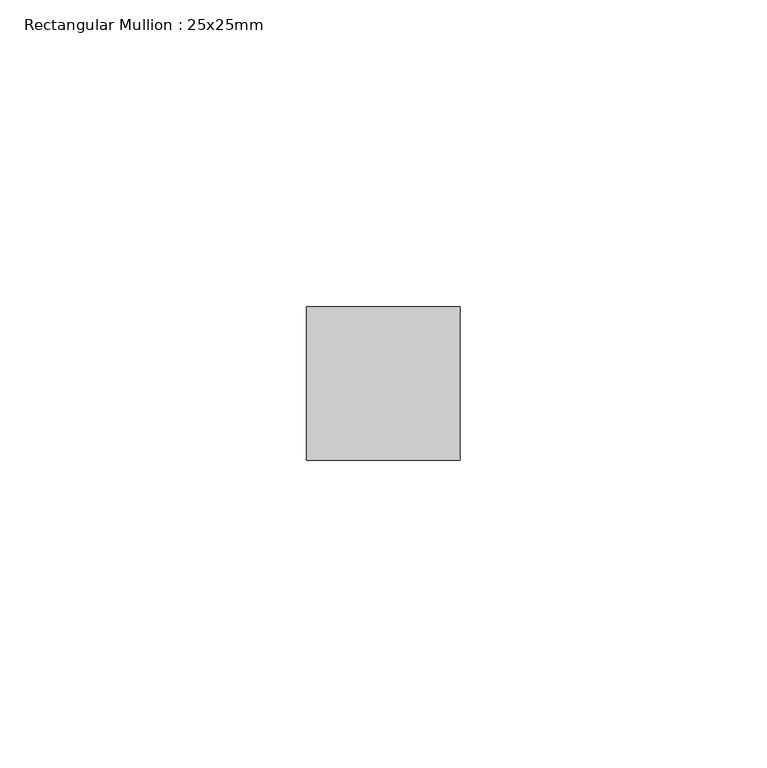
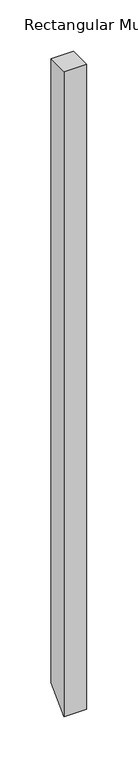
"""IFC4 building model written with IfcOpenShell, lengths in millimetres: member geometry, Rectangular Mullion : 25x25mm."""

import ifcopenshell
import ifcopenshell.guid

model = None  # the IFC model being written
_history = None  # IfcOwnerHistory: only IFC2X3 demands one
_inside = {}  # id of a spatial element -> (the spatial element, [elements in it])
_under = {}  # id of a project, library or spatial element -> (it, [spatial elements below it])
_declared = {}  # id of a project -> (the project, [libraries it declares])
_typed = {}  # id of a type object -> (the type object, [elements of that type])
_made_of = {}  # id of a material, layer set ... -> (it, [elements and type objects made of it])


def new_model(schema):
    """Start an empty IFC model of exactly this schema.

    Asked for "IFC4X3", IfcOpenShell would pick the latest addendum, in which some entities
    have other attributes; the version numbers below select the first issue.
    IFC2X3 requires an IfcOwnerHistory on every rooted entity: one is made here for all.
    """
    global model, _history
    if schema == "IFC4X3":
        model = ifcopenshell.file(schema_version=(4, 3, 0, 0))
    else:
        model = ifcopenshell.file(schema=schema)
    _inside.clear()
    _under.clear()
    _declared.clear()
    _typed.clear()
    _made_of.clear()
    _history = None
    if model.schema == "IFC2X3":
        org = make("IfcOrganization", Name="unknown")
        user = make(
            "IfcPersonAndOrganization",
            ThePerson=make("IfcPerson", FamilyName="unknown"),
            TheOrganization=org,
        )
        app = make(
            "IfcApplication",
            ApplicationDeveloper=org,
            Version="unknown",
            ApplicationFullName="unknown",
            ApplicationIdentifier="unknown",
        )
        _history = make(
            "IfcOwnerHistory",
            OwningUser=user,
            OwningApplication=app,
            ChangeAction="ADDED",
            CreationDate=0,
        )
    return model


def make(cls, **values):
    """One entity of the class cls with the attributes given. An attribute that is None is left unset."""
    return model.create_entity(
        cls, **{name: value for name, value in values.items() if value is not None}
    )


def rooted(cls, **values):
    """An entity with a GlobalId (a new one), such as an element, a storey or a relation."""
    return make(cls, GlobalId=ifcopenshell.guid.new(), OwnerHistory=_history, **values)


def si_unit(unit_type, name, prefix=None):
    """IfcSIUnit, for example si_unit("LENGTHUNIT", "METRE", prefix="MILLI")."""
    return make("IfcSIUnit", UnitType=unit_type, Prefix=prefix, Name=name)


def assignment(units):
    """IfcUnitAssignment: the units of a project."""
    return None if units is None else make("IfcUnitAssignment", Units=units)


def point(xyz):
    """IfcCartesianPoint."""
    return None if xyz is None else make("IfcCartesianPoint", Coordinates=xyz)


def direction(xyz):
    """IfcDirection."""
    return None if xyz is None else make("IfcDirection", DirectionRatios=xyz)


def frame(location, z_axis=None, x_axis=None):
    """IfcAxis2Placement3D, a coordinate frame: its origin and axes. An axis left out is left unset."""
    return make(
        "IfcAxis2Placement3D",
        Location=point(location),
        Axis=direction(z_axis),
        RefDirection=direction(x_axis),
    )


def origin():
    """The frame at (0, 0, 0) with its axes left unset."""
    return frame((0.0, 0.0, 0.0))


def place(relative_to, where):
    """IfcLocalPlacement: puts the frame where relative to a parent placement (None: the world)."""
    return make(
        "IfcLocalPlacement", PlacementRelTo=relative_to, RelativePlacement=where
    )


def context(
    kind, dimensions, precision=None, world=None, true_north=None, identifier=None
):
    """IfcGeometricRepresentationContext, for example the 3D "Model" context."""
    return make(
        "IfcGeometricRepresentationContext",
        ContextIdentifier=identifier,
        ContextType=kind,
        CoordinateSpaceDimension=dimensions,
        Precision=precision,
        WorldCoordinateSystem=world,
        TrueNorth=true_north,
    )


def project(units=None, contexts=None):
    """IfcProject with its units and contexts."""
    return rooted(
        "IfcProject",
        Name="project",
        RepresentationContexts=contexts,
        UnitsInContext=assignment(units),
    )


def spatial(cls, under=None, at=None, **own):
    """A site, building, storey or space (cls), placed at a placement, below another one or the project."""
    s = rooted(cls, ObjectPlacement=at, **own)
    if under is not None:
        _under.setdefault(under.id(), (under, []))[1].append(s)
    return s


def polyline(points):
    """IfcPolyline through the points."""
    return make("IfcPolyline", Points=[point(p) for p in points])


def outline(outer, holes=None, kind="AREA"):
    """IfcArbitraryClosedProfileDef: a profile drawn as a closed curve; with holes, ...WithVoids."""
    if holes is None:
        return make("IfcArbitraryClosedProfileDef", ProfileType=kind, OuterCurve=outer)
    return make(
        "IfcArbitraryProfileDefWithVoids",
        ProfileType=kind,
        OuterCurve=outer,
        InnerCurves=holes,
    )


def extrude(swept, where, along, depth):
    """IfcExtrudedAreaSolid: the profile swept, set in the frame where, extruded along a direction by depth."""
    return make(
        "IfcExtrudedAreaSolid",
        SweptArea=swept,
        Position=where,
        ExtrudedDirection=direction(along),
        Depth=depth,
    )


def shape(context_of_items, identifier, shape_type, items):
    """IfcShapeRepresentation: the items that make up one representation, for example the "Body"."""
    return make(
        "IfcShapeRepresentation",
        ContextOfItems=context_of_items,
        RepresentationIdentifier=identifier,
        RepresentationType=shape_type,
        Items=items,
    )


def source(mapping_origin, context_of_items, identifier, shape_type, items):
    """IfcRepresentationMap: a shape defined once, which mapped items show again and again."""
    return make(
        "IfcRepresentationMap",
        MappingOrigin=mapping_origin,
        MappedRepresentation=shape(context_of_items, identifier, shape_type, items),
    )


def transform(
    local_origin,
    x_axis=None,
    y_axis=None,
    z_axis=None,
    scale=None,
    scale2=None,
    scale3=None,
    uniform=True,
):
    """IfcCartesianTransformationOperator3D, or its non-uniform kind. x_axis, y_axis, z_axis: its Axis1, 2, 3."""
    if uniform:
        return make(
            "IfcCartesianTransformationOperator3D",
            Axis1=direction(x_axis),
            Axis2=direction(y_axis),
            LocalOrigin=point(local_origin),
            Scale=scale,
            Axis3=direction(z_axis),
        )
    return make(
        "IfcCartesianTransformationOperator3DnonUniform",
        Axis1=direction(x_axis),
        Axis2=direction(y_axis),
        LocalOrigin=point(local_origin),
        Scale=scale,
        Axis3=direction(z_axis),
        Scale2=scale2,
        Scale3=scale3,
    )


def mapped(mapping_source, mapping_target):
    """IfcMappedItem: shows the shape of a source again, moved by a transform."""
    return make(
        "IfcMappedItem", MappingSource=mapping_source, MappingTarget=mapping_target
    )


def made_of(thing, what):
    """Note that an element or type object is made of a material, layer set ...; save() writes the relation."""
    if what is not None:
        _made_of.setdefault(what.id(), (what, []))[1].append(thing)
    return thing


def element(
    cls,
    number,
    at=None,
    inside=None,
    cuts=None,
    type_object=None,
    material=None,
    context=None,
    identifier="Body",
    shape_type=None,
    held_by="IfcProductDefinitionShape",
    body=None,
    shapes=None,
    **own,
):
    """One element of the class cls, such as IfcWall. Its Tag is "e" and its number.

    at: its placement. inside: the storey or other place that contains it. cuts: it is an
    opening in that element (IfcRelVoidsElement). A single representation is given by context,
    identifier, shape_type and body (its items); several are given by shapes. held_by: the class
    of the entity that holds the representations. save() writes the other relations.
    """
    e = rooted(cls, Tag="e%d" % number, ObjectPlacement=at, **own)
    if body is not None:
        shapes = [shape(context, identifier, shape_type, body)]
    if shapes is not None:
        e.Representation = make(held_by, Representations=shapes)
    if inside is not None:
        _inside.setdefault(inside.id(), (inside, []))[1].append(e)
    if cuts is not None:
        rooted(
            "IfcRelVoidsElement", RelatingBuildingElement=cuts, RelatedOpeningElement=e
        )
    if type_object is not None:
        _typed.setdefault(type_object.id(), (type_object, []))[1].append(e)
    return made_of(e, material)


def aggregate(whole, parts):
    """IfcRelAggregates: a whole, such as a stair, and the parts it consists of."""
    return rooted("IfcRelAggregates", RelatingObject=whole, RelatedObjects=parts)


def save(model, path):
    """Write the relations noted so far, then the file.

    IfcRelAggregates (storeys below a building ...), IfcRelContainedInSpatialStructure (elements
    in a storey), IfcRelDefinesByType, IfcRelAssociatesMaterial and IfcRelDeclares: one each for
    every whole, place, type object, material and project.
    """
    for whole, parts in _under.values():
        aggregate(whole, parts)
    for where, things in _inside.values():
        rooted(
            "IfcRelContainedInSpatialStructure",
            RelatedElements=things,
            RelatingStructure=where,
        )
    for kind, things in _typed.values():
        rooted("IfcRelDefinesByType", RelatedObjects=things, RelatingType=kind)
    for what, things in _made_of.values():
        rooted("IfcRelAssociatesMaterial", RelatedObjects=things, RelatingMaterial=what)
    for by, libraries in _declared.values():
        rooted("IfcRelDeclares", RelatingContext=by, RelatedDefinitions=libraries)
    model.write(path)


def rectangular_mullion_25x25mm_12161fae(model_context):
    return source(origin(), model_context, "Body", "SweptSolid", [
        extrude(outline(polyline([(-24.5, 0.0), (0.5, 0.0), (0.5, -739.5000001), (-24.5, -764.5000001), (-24.5, 0.0)])), frame((-25.0, 0.0, 0.0), z_axis=(1.0, 0.0, 0.0), x_axis=(0.0, 1.0, 0.0)), (0.0, 0.0, 1.0), 25.0),
    ])


if __name__ == "__main__":
    model = new_model("IFC4")
    model_context = context("Model", 3, world=origin())
    ifc_project = project(units=[si_unit("LENGTHUNIT", "METRE", prefix="MILLI")], contexts=[model_context])
    site = spatial("IfcSite", under=ifc_project)
    building = spatial("IfcBuilding", under=site)
    placement = place(None, origin())
    rectangular_mullion_25x25mm_shape = rectangular_mullion_25x25mm_12161fae(model_context)
    element("IfcMember", 1, ObjectType="Rectangular Mullion : 25x25mm", at=placement, inside=building, context=model_context, shape_type="MappedRepresentation", body=[
        mapped(rectangular_mullion_25x25mm_shape, transform((0.0, 0.0, 0.0), x_axis=(1.0, 0.0, 0.0), y_axis=(0.0, 1.0, 0.0), z_axis=(0.0, 0.0, 1.0))),
    ])
    save(model, "model.ifc")
